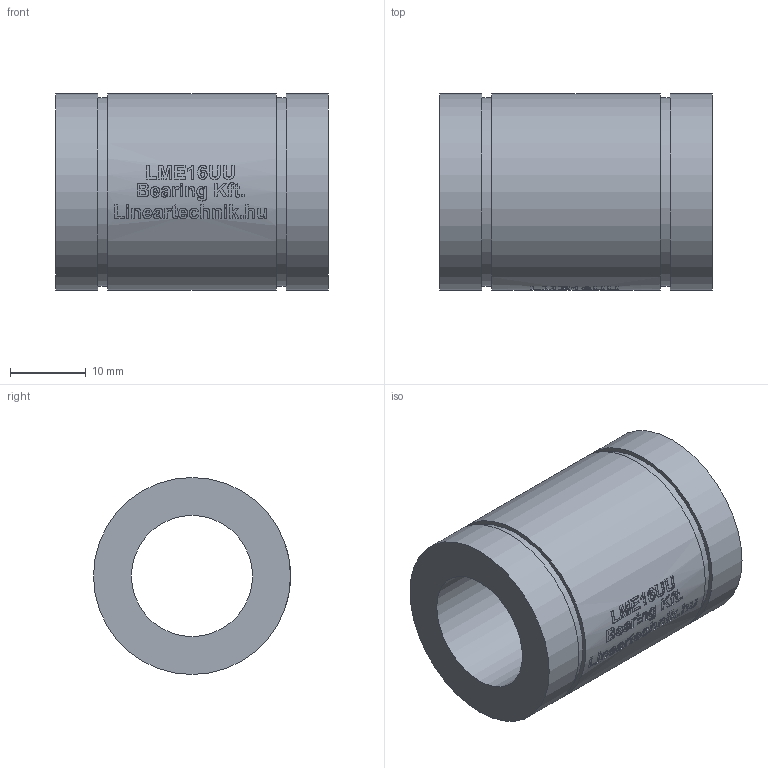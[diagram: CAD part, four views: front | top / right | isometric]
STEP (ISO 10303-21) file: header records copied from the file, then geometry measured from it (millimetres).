
FILE_DESCRIPTION(/* description */ (''),/* implementation_level */ '2;1');
FILE_NAME(/* name */ 'LME16UU',/* time_stamp */ '2019-05-17T10:33:07+02:00',/* author */ ('VĂ©gh MĂˇtĂ©'),/* organization */ ('Bearing Kft'),/* preprocessor_version */ 'ST-DEVELOPER v16.7',/* originating_system */ 'DEX',/* authorisation */ $);
FILE_SCHEMA (('AUTOMOTIVE_DESIGN {1 0 10303 214 3 1 1}'));
Length unit declared in the file: millimetre
Products named in the file (1): LME16UU
Bounding box: 36 x 26 x 26 mm (x, y, z)
Volume: 11757.1 mm3; surface area: 5600.3 mm2
Topology: 1 solids, 1 shells, 314 faces, 788 edges, 526 vertices
Faces by surface type: plane 168, bspline 94, cylinder 52
Full cylindrical faces by diameter (mm): 16 x1, 24.9 x2, 26 x3
Entity records: 15791 total; most frequent: CARTESIAN_POINT 8754, ORIENTED_EDGE 1556, DIRECTION 1183, EDGE_CURVE 778, VERTEX_POINT 524, LINE 433, VECTOR 433, AXIS2_PLACEMENT_3D 375
